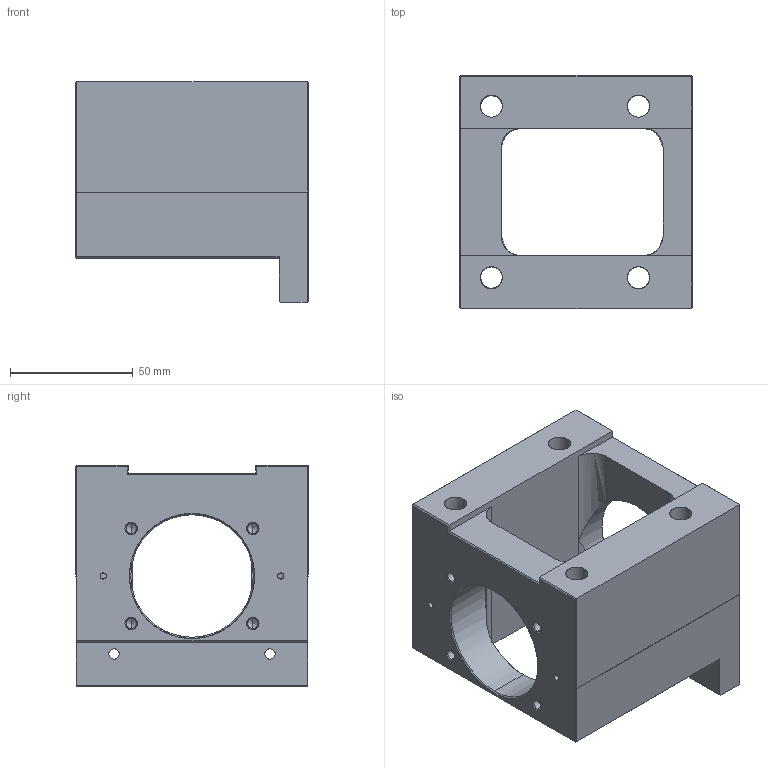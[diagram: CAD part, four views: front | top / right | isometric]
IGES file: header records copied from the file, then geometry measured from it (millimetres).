
Start section: SolidWorks IGES file using analytic representation for surfaces
Global section: file name: C:\Users\117\Desktop\1061208網站3D圖檔問題處理\傳動座\外露型\MBH\MBH15H-EP.IGS,15HSolidWorks; native system: 2017; preprocessor: SolidWorks 2017; author: 117; date: 171228.142948; units: millimetre
Bounding box: 95 x 95 x 90 mm (x, y, z)
Surface area: 66241.3 mm2 (no closed solid volume)
Topology: 0 solids, 0 shells, 222 faces, 2612 edges, 2532 vertices
Faces by surface type: revolution 174, bspline 48
